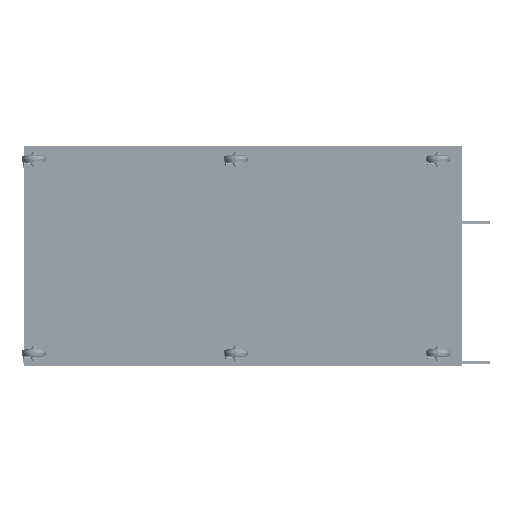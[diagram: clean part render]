
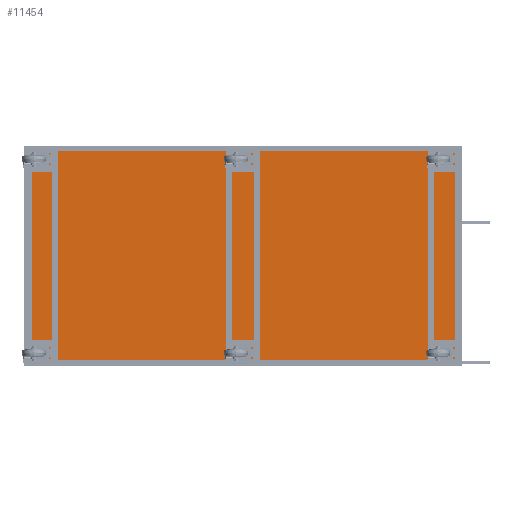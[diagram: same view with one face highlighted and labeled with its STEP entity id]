
A CAD part, front view. The second image highlights one B-rep face of the part: STEP entity #11454.
In plain terms, the highlighted planar face has unit normal (0, -1, 0) as drawn and (-1, 0, 0) by its records, which use the part's own axes.
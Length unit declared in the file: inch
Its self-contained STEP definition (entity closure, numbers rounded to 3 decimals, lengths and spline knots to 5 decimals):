
#11323=DIRECTION('',(0.,1.,0.));
#11324=VECTOR('',#11323,71.5);
#11325=CARTESIAN_POINT('',(-0.25,-35.75,17.625));
#11326=LINE('',#11325,#11324);
#11344=DIRECTION('',(0.,0.,-1.));
#11345=VECTOR('',#11344,35.25);
#11346=CARTESIAN_POINT('',(-0.25,35.75,17.625));
#11347=LINE('',#11346,#11345);
#11358=DIRECTION('',(0.,-1.,0.));
#11359=VECTOR('',#11358,71.5);
#11360=CARTESIAN_POINT('',(-0.25,35.75,-17.625));
#11361=LINE('',#11360,#11359);
#11365=DIRECTION('',(0.,0.,1.));
#11366=VECTOR('',#11365,35.25);
#11367=CARTESIAN_POINT('',(-0.25,-35.75,-17.625));
#11368=LINE('',#11367,#11366);
#11379=CARTESIAN_POINT('',(-0.25,-35.75,-17.625));
#11381=VERTEX_POINT('',#11379);
#11383=CARTESIAN_POINT('',(-0.25,-35.75,17.625));
#11385=VERTEX_POINT('',#11383);
#11387=CARTESIAN_POINT('',(-0.25,35.75,-17.625));
#11389=VERTEX_POINT('',#11387);
#11391=CARTESIAN_POINT('',(-0.25,35.75,17.625));
#11393=VERTEX_POINT('',#11391);
#11440=CARTESIAN_POINT('',(-0.25,0.,0.));
#11441=DIRECTION('',(1.,0.,0.));
#11442=DIRECTION('',(0.,-1.,0.));
#11443=AXIS2_PLACEMENT_3D('',#11440,#11441,#11442);
#11444=PLANE('',#11443);
#11446=ORIENTED_EDGE('',*,*,#11445,.F.);
#11447=ORIENTED_EDGE('',*,*,#11423,.F.);
#11449=ORIENTED_EDGE('',*,*,#11448,.F.);
#11451=ORIENTED_EDGE('',*,*,#11450,.F.);
#11452=EDGE_LOOP('',(#11446,#11447,#11449,#11451));
#11453=FACE_OUTER_BOUND('',#11452,.F.);
#11423=EDGE_CURVE('',#11385,#11393,#11326,.T.);
#11445=EDGE_CURVE('',#11393,#11389,#11347,.T.);
#11448=EDGE_CURVE('',#11381,#11385,#11368,.T.);
#11450=EDGE_CURVE('',#11389,#11381,#11361,.T.);
#11454=ADVANCED_FACE('',(#11453),#11444,.F.);
